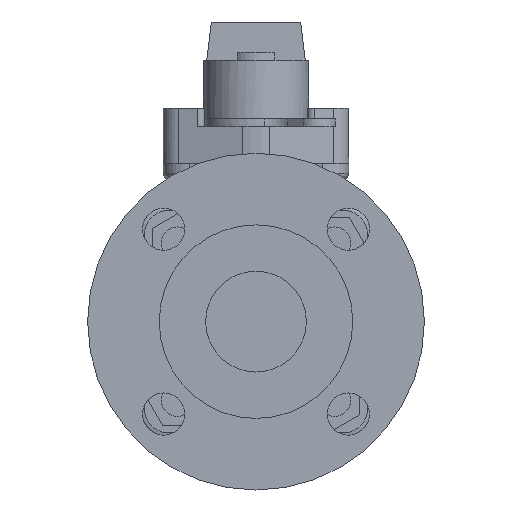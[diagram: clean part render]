
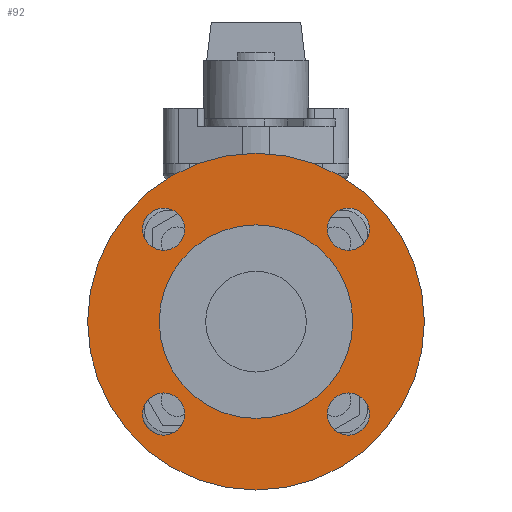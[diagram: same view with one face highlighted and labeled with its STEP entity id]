
A CAD part, left-side view. The second image highlights one B-rep face of the part: STEP entity #92.
In plain terms, the highlighted planar face has unit normal (-1, 0, 0).
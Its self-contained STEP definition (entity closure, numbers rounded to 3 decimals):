
#92=ADVANCED_FACE('',(#475,#476,#477,#478,#479,#480),#474,.T.);
#474=PLANE('',#2629);
#475=FACE_OUTER_BOUND('',#2630,.T.);
#476=FACE_BOUND('',#2631,.T.);
#477=FACE_BOUND('',#2632,.T.);
#478=FACE_BOUND('',#2633,.T.);
#479=FACE_BOUND('',#2634,.T.);
#480=FACE_BOUND('',#2635,.T.);
#2626=CARTESIAN_POINT('',(-80.6,-119.985,-137.));
#2627=DIRECTION('',(-1.,0.,0.));
#2628=DIRECTION('',(0.,0.,1.));
#2629=AXIS2_PLACEMENT_3D('',#2626,#2627,#2628);
#2630=EDGE_LOOP('',(#4184,#4185));
#2631=EDGE_LOOP('',(#4186,#4187));
#2632=EDGE_LOOP('',(#4188,#4189));
#2633=EDGE_LOOP('',(#4190,#4191));
#2634=EDGE_LOOP('',(#4192,#4193));
#2635=EDGE_LOOP('',(#4194,#4195));
#4184=ORIENTED_EDGE('',*,*,#5314,.T.);
#4185=ORIENTED_EDGE('',*,*,#5315,.T.);
#4186=ORIENTED_EDGE('',*,*,#5316,.F.);
#4187=ORIENTED_EDGE('',*,*,#5317,.F.);
#4188=ORIENTED_EDGE('',*,*,#5318,.F.);
#4189=ORIENTED_EDGE('',*,*,#5319,.F.);
#4190=ORIENTED_EDGE('',*,*,#5320,.F.);
#4191=ORIENTED_EDGE('',*,*,#5321,.F.);
#4192=ORIENTED_EDGE('',*,*,#5322,.F.);
#4193=ORIENTED_EDGE('',*,*,#5323,.F.);
#4194=ORIENTED_EDGE('',*,*,#5324,.F.);
#4195=ORIENTED_EDGE('',*,*,#5325,.F.);
#5314=EDGE_CURVE('',#6639,#6640,#6641,.T.);
#5315=EDGE_CURVE('',#6640,#6639,#6647,.T.);
#5316=EDGE_CURVE('',#6653,#6654,#6655,.T.);
#5317=EDGE_CURVE('',#6654,#6653,#6661,.T.);
#5318=EDGE_CURVE('',#6667,#6668,#6669,.T.);
#5319=EDGE_CURVE('',#6668,#6667,#6675,.T.);
#5320=EDGE_CURVE('',#6681,#6682,#6683,.T.);
#5321=EDGE_CURVE('',#6682,#6681,#6689,.T.);
#5322=EDGE_CURVE('',#6695,#6696,#6697,.T.);
#5323=EDGE_CURVE('',#6696,#6695,#6703,.T.);
#5324=EDGE_CURVE('',#6709,#6710,#6711,.T.);
#5325=EDGE_CURVE('',#6710,#6709,#6717,.T.);
#6639=VERTEX_POINT('',#10112);
#6640=VERTEX_POINT('',#10113);
#6641=CIRCLE('',#10117,63.5);
#6647=CIRCLE('',#10121,63.5);
#6653=VERTEX_POINT('',#10122);
#6654=VERTEX_POINT('',#10123);
#6655=CIRCLE('',#10127,7.95);
#6661=CIRCLE('',#10131,7.95);
#6667=VERTEX_POINT('',#10132);
#6668=VERTEX_POINT('',#10133);
#6669=CIRCLE('',#10137,7.95);
#6675=CIRCLE('',#10141,7.95);
#6681=VERTEX_POINT('',#10142);
#6682=VERTEX_POINT('',#10143);
#6683=CIRCLE('',#10147,7.95);
#6689=CIRCLE('',#10151,7.95);
#6695=VERTEX_POINT('',#10152);
#6696=VERTEX_POINT('',#10153);
#6697=CIRCLE('',#10157,7.95);
#6703=CIRCLE('',#10161,7.95);
#6709=VERTEX_POINT('',#10162);
#6710=VERTEX_POINT('',#10163);
#6711=CIRCLE('',#10167,36.5);
#6717=CIRCLE('',#10171,36.5);
#10112=CARTESIAN_POINT('',(-80.6,0.,63.5));
#10113=CARTESIAN_POINT('',(-80.6,0.,-63.5));
#10114=CARTESIAN_POINT('',(-80.6,0.,0.));
#10115=DIRECTION('',(-1.,0.,0.));
#10116=DIRECTION('',(0.,0.,1.));
#10117=AXIS2_PLACEMENT_3D('',#10114,#10115,#10116);
#10118=CARTESIAN_POINT('',(-80.6,0.,0.));
#10119=DIRECTION('',(-1.,0.,0.));
#10120=DIRECTION('',(0.,0.,1.));
#10121=AXIS2_PLACEMENT_3D('',#10118,#10119,#10120);
#10122=CARTESIAN_POINT('',(-80.6,34.86,-26.91));
#10123=CARTESIAN_POINT('',(-80.6,34.86,-42.81));
#10124=CARTESIAN_POINT('',(-80.6,34.86,-34.86));
#10125=DIRECTION('',(-1.,0.,0.));
#10126=DIRECTION('',(0.,0.,-1.));
#10127=AXIS2_PLACEMENT_3D('',#10124,#10125,#10126);
#10128=CARTESIAN_POINT('',(-80.6,34.86,-34.86));
#10129=DIRECTION('',(-1.,0.,0.));
#10130=DIRECTION('',(0.,0.,-1.));
#10131=AXIS2_PLACEMENT_3D('',#10128,#10129,#10130);
#10132=CARTESIAN_POINT('',(-80.6,-34.86,-42.81));
#10133=CARTESIAN_POINT('',(-80.6,-34.86,-26.91));
#10134=CARTESIAN_POINT('',(-80.6,-34.86,-34.86));
#10135=DIRECTION('',(-1.,0.,0.));
#10136=DIRECTION('',(0.,0.,1.));
#10137=AXIS2_PLACEMENT_3D('',#10134,#10135,#10136);
#10138=CARTESIAN_POINT('',(-80.6,-34.86,-34.86));
#10139=DIRECTION('',(-1.,0.,0.));
#10140=DIRECTION('',(0.,0.,1.));
#10141=AXIS2_PLACEMENT_3D('',#10138,#10139,#10140);
#10142=CARTESIAN_POINT('',(-80.6,-34.86,42.81));
#10143=CARTESIAN_POINT('',(-80.6,-34.86,26.91));
#10144=CARTESIAN_POINT('',(-80.6,-34.86,34.86));
#10145=DIRECTION('',(-1.,0.,0.));
#10146=DIRECTION('',(0.,0.,-1.));
#10147=AXIS2_PLACEMENT_3D('',#10144,#10145,#10146);
#10148=CARTESIAN_POINT('',(-80.6,-34.86,34.86));
#10149=DIRECTION('',(-1.,0.,0.));
#10150=DIRECTION('',(0.,0.,-1.));
#10151=AXIS2_PLACEMENT_3D('',#10148,#10149,#10150);
#10152=CARTESIAN_POINT('',(-80.6,34.86,26.91));
#10153=CARTESIAN_POINT('',(-80.6,34.86,42.81));
#10154=CARTESIAN_POINT('',(-80.6,34.86,34.86));
#10155=DIRECTION('',(-1.,0.,0.));
#10156=DIRECTION('',(0.,0.,1.));
#10157=AXIS2_PLACEMENT_3D('',#10154,#10155,#10156);
#10158=CARTESIAN_POINT('',(-80.6,34.86,34.86));
#10159=DIRECTION('',(-1.,0.,0.));
#10160=DIRECTION('',(0.,0.,1.));
#10161=AXIS2_PLACEMENT_3D('',#10158,#10159,#10160);
#10162=CARTESIAN_POINT('',(-80.6,0.,-36.5));
#10163=CARTESIAN_POINT('',(-80.6,0.,36.5));
#10164=CARTESIAN_POINT('',(-80.6,0.,0.));
#10165=DIRECTION('',(-1.,0.,0.));
#10166=DIRECTION('',(0.,0.,1.));
#10167=AXIS2_PLACEMENT_3D('',#10164,#10165,#10166);
#10168=CARTESIAN_POINT('',(-80.6,0.,0.));
#10169=DIRECTION('',(-1.,0.,0.));
#10170=DIRECTION('',(0.,0.,1.));
#10171=AXIS2_PLACEMENT_3D('',#10168,#10169,#10170);
